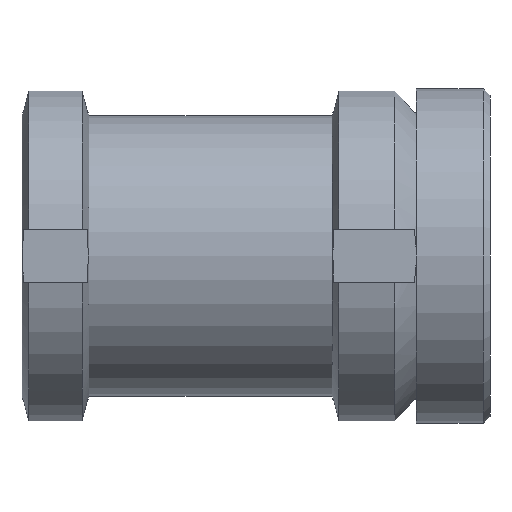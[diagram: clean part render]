
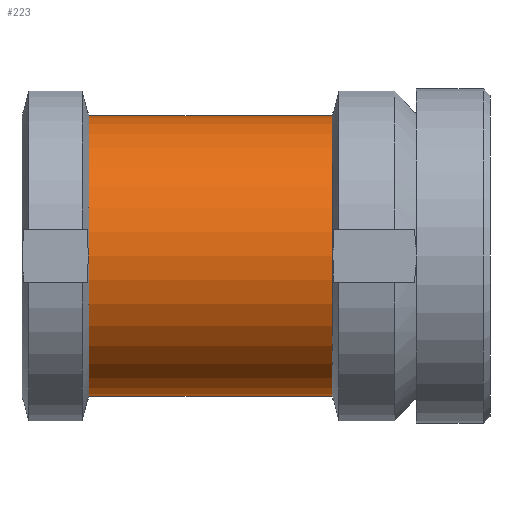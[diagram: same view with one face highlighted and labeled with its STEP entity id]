
A CAD part, front view. The second image highlights one B-rep face of the part: STEP entity #223.
In plain terms, the highlighted cylindrical face has radius 10.5 mm (diameter 21 mm), a full revolution.
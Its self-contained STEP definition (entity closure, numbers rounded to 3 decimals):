
#223 = ADVANCED_FACE( '', ( #308, #309 ), #310, .T. );
#308 = FACE_OUTER_BOUND( '', #460, .T. );
#309 = FACE_OUTER_BOUND( '', #461, .T. );
#310 = CYLINDRICAL_SURFACE( '', #462, 10.5 );
#460 = EDGE_LOOP( '', ( #711 ) );
#461 = EDGE_LOOP( '', ( #712 ) );
#462 = AXIS2_PLACEMENT_3D( '', #713, #714, #715 );
#711 = ORIENTED_EDGE( '', *, *, #1020, .F. );
#712 = ORIENTED_EDGE( '', *, *, #1054, .T. );
#713 = CARTESIAN_POINT( '', ( 0., 0., 0. ) );
#714 = DIRECTION( '', ( 0., 1., 0. ) );
#715 = DIRECTION( '', ( 0., 0., -1. ) );
#1020 = EDGE_CURVE( '', #1161, #1161, #1162, .T. );
#1054 = EDGE_CURVE( '', #1214, #1214, #1215, .T. );
#1161 = VERTEX_POINT( '', #1443 );
#1162 = CIRCLE( '', #1444, 10.5 );
#1214 = VERTEX_POINT( '', #1564 );
#1215 = CIRCLE( '', #1565, 10.5 );
#1443 = CARTESIAN_POINT( '', ( 0., 5., -10.5 ) );
#1444 = AXIS2_PLACEMENT_3D( '', #1778, #1779, #1780 );
#1564 = CARTESIAN_POINT( '', ( 0., 23.2, -10.5 ) );
#1565 = AXIS2_PLACEMENT_3D( '', #1819, #1820, #1821 );
#1778 = CARTESIAN_POINT( '', ( 0., 5., 0. ) );
#1779 = DIRECTION( '', ( 0., -1., 0. ) );
#1780 = DIRECTION( '', ( 0., 0., -1. ) );
#1819 = CARTESIAN_POINT( '', ( 0., 23.2, 0. ) );
#1820 = DIRECTION( '', ( 0., -1., 0. ) );
#1821 = DIRECTION( '', ( 0., 0., -1. ) );
